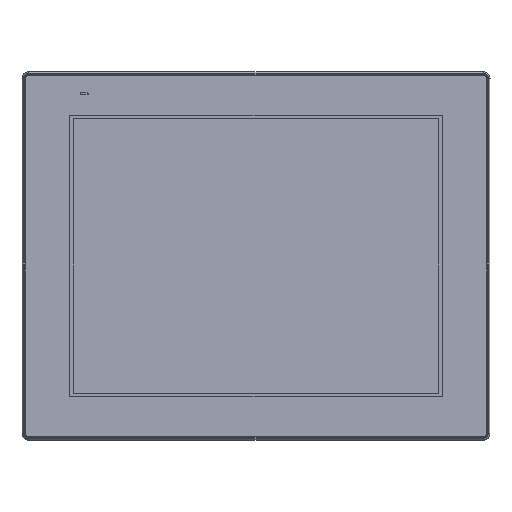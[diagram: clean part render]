
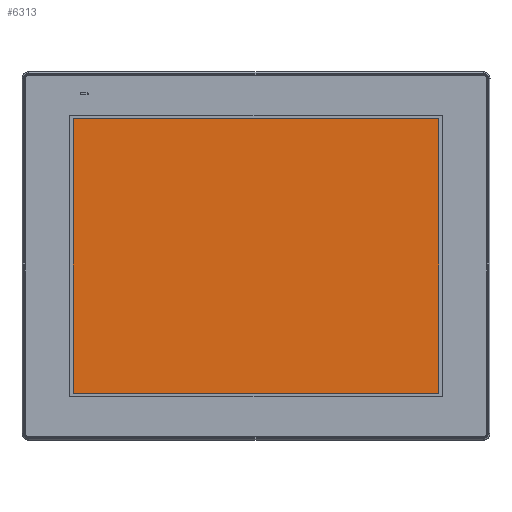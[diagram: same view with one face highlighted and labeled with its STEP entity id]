
A CAD part, top view. The second image highlights one B-rep face of the part: STEP entity #6313.
In plain terms, the highlighted planar face has unit normal (0, 0, 1).
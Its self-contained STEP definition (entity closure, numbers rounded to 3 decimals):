
#5848 = CARTESIAN_POINT ( 'NONE',  ( 29.932, 27.332, 56.807 ) ) ;
#6075 = VECTOR ( 'NONE', #81744, 1000. ) ;
#6313 = ADVANCED_FACE ( 'N', ( #37421 ), #14133, .F. ) ;
#8946 = VERTEX_POINT ( 'NONE', #29219 ) ;
#11235 = CARTESIAN_POINT ( 'NONE',  ( 29.932, 27.332, 56.807 ) ) ;
#13985 = EDGE_LOOP ( 'NONE', ( #44004, #17311, #52433, #81899 ) ) ;
#14133 = PLANE ( 'NONE',  #55958 ) ;
#14349 = EDGE_CURVE ( 'NONE', #78717, #8946, #78404, .T. ) ;
#14707 = LINE ( 'NONE', #47705, #6075 ) ;
#17311 = ORIENTED_EDGE ( 'NONE', *, *, #57616, .T. ) ;
#18009 = LINE ( 'NONE', #48593, #33076 ) ;
#18870 = DIRECTION ( 'NONE',  ( -1., 0., 0. ) ) ;
#20829 = DIRECTION ( 'NONE',  ( 0., 1., 0. ) ) ;
#21219 = EDGE_CURVE ( 'NONE', #27947, #61577, #66200, .T. ) ;
#26348 = CARTESIAN_POINT ( 'NONE',  ( 242.532, 187.132, 56.807 ) ) ;
#27947 = VERTEX_POINT ( 'NONE', #78999 ) ;
#29219 = CARTESIAN_POINT ( 'NONE',  ( 242.532, 27.332, 56.807 ) ) ;
#33076 = VECTOR ( 'NONE', #20829, 1000. ) ;
#37421 = FACE_OUTER_BOUND ( 'NONE', #13985, .T. ) ;
#41647 = DIRECTION ( 'NONE',  ( 0., 0., -1. ) ) ;
#44004 = ORIENTED_EDGE ( 'NONE', *, *, #21219, .T. ) ;
#47039 = DIRECTION ( 'NONE',  ( -1., 0., 0. ) ) ;
#47705 = CARTESIAN_POINT ( 'NONE',  ( 29.932, 187.132, 56.807 ) ) ;
#48593 = CARTESIAN_POINT ( 'NONE',  ( 242.532, 27.332, 56.807 ) ) ;
#52433 = ORIENTED_EDGE ( 'NONE', *, *, #14349, .T. ) ;
#55381 = DIRECTION ( 'NONE',  ( 1., 0., 0. ) ) ;
#55958 = AXIS2_PLACEMENT_3D ( 'NONE', #75659, #41647, #47039 ) ;
#57616 = EDGE_CURVE ( 'NONE', #61577, #78717, #14707, .T. ) ;
#59783 = VECTOR ( 'NONE', #18870, 1000. ) ;
#61577 = VERTEX_POINT ( 'NONE', #87935 ) ;
#66200 = LINE ( 'NONE', #26348, #59783 ) ;
#75627 = EDGE_CURVE ( 'NONE', #8946, #27947, #18009, .T. ) ;
#75659 = CARTESIAN_POINT ( 'NONE',  ( 3.982, 3.982, 56.807 ) ) ;
#78404 = LINE ( 'NONE', #5848, #87898 ) ;
#78717 = VERTEX_POINT ( 'NONE', #11235 ) ;
#78999 = CARTESIAN_POINT ( 'NONE',  ( 242.532, 187.132, 56.807 ) ) ;
#81744 = DIRECTION ( 'NONE',  ( 0., -1., 0. ) ) ;
#81899 = ORIENTED_EDGE ( 'NONE', *, *, #75627, .T. ) ;
#87898 = VECTOR ( 'NONE', #55381, 1000. ) ;
#87935 = CARTESIAN_POINT ( 'NONE',  ( 29.932, 187.132, 56.807 ) ) ;
